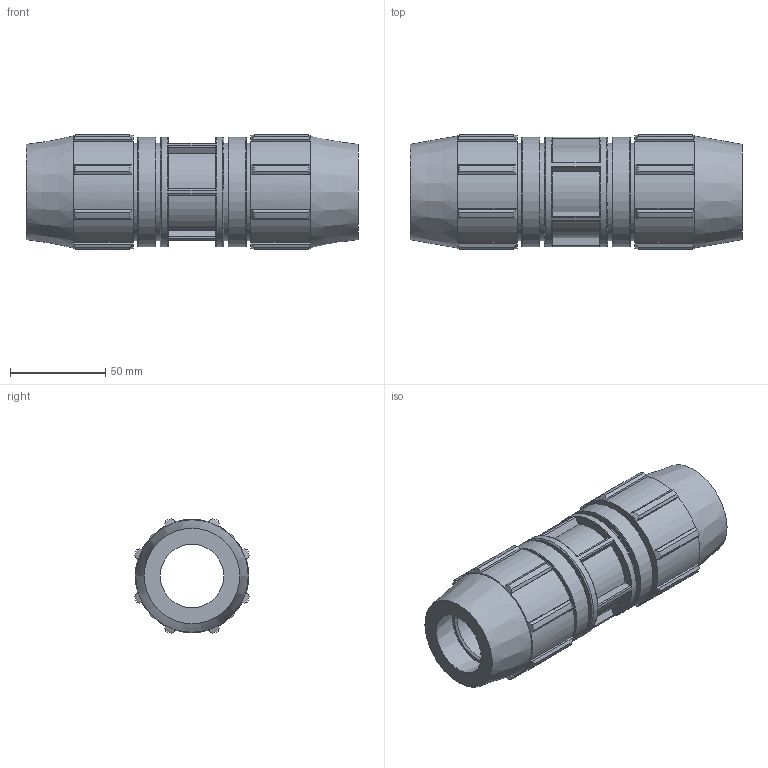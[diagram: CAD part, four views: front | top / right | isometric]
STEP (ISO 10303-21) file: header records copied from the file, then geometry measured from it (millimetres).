
FILE_DESCRIPTION(/* description */ ('PLASSON REPAIR COUPLER 1'''' - 1'''''),/* implementation_level */ '2;1');
FILE_NAME(/* name */ 'C:\Dropbox\KIMPROJECTS-Inventor 2019\99-16-3568-Processing Inch\ASTM Compression 2021\0761M\0761M0010.ipt.stp',/* time_stamp */ '2021-08-26T12:34:27+03:00',/* author */ ('KIM'),/* organization */ (''),/* preprocessor_version */ 'ST-DEVELOPER v17.2',/* originating_system */ 'Autodesk Inventor 2019',/* authorisation */ '');
FILE_SCHEMA (('AUTOMOTIVE_DESIGN { 1 0 10303 214 3 1 1 }'));
Length unit declared in the file: inch
Products named in the file (1): 0761M0010
Bounding box: 173.99 x 60.23 x 60.23 mm (x, y, z)
Volume: 276857.1 mm3; surface area: 60880.9 mm2
Topology: 1 solids, 1 shells, 200 faces, 572 edges, 390 vertices
Faces by surface type: plane 100, cylinder 58, cone 24, torus 18
Full cylindrical faces by diameter (mm): 33.3 x1, 51.206 x4, 57.607 x3
Entity records: 6815 total; most frequent: CARTESIAN_POINT 1531, ORIENTED_EDGE 1144, DIRECTION 1102, EDGE_CURVE 572, AXIS2_PLACEMENT_3D 417, VERTEX_POINT 390, LINE 268, VECTOR 268
